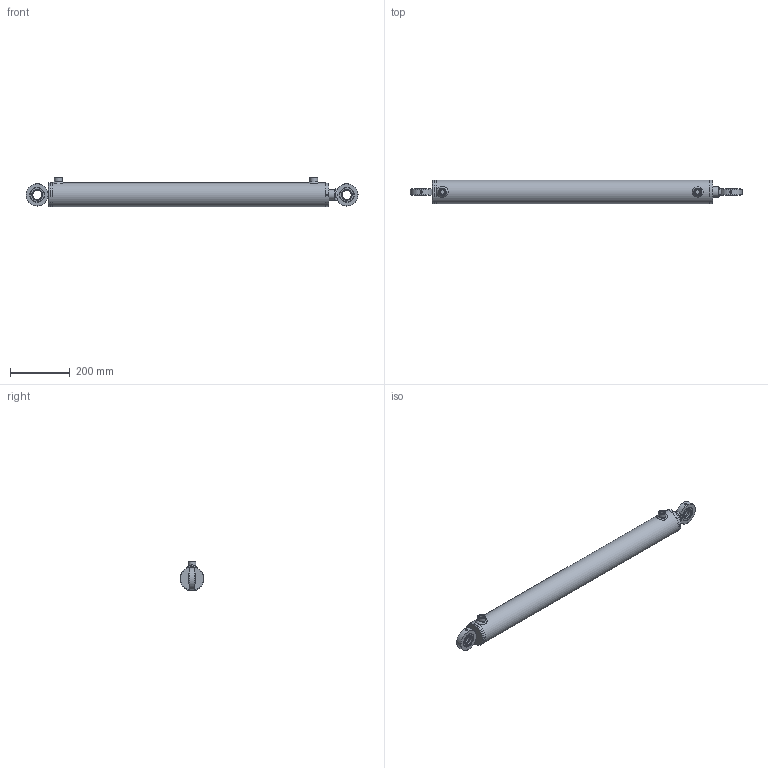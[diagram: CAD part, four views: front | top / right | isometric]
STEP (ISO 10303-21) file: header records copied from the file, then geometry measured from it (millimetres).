
FILE_DESCRIPTION( ( 'Unknown' ), '1' );
FILE_NAME( 'E:/LIBRERIA_3d/CILINDRI/HMC/HMC4350800.stp', 'Unknown', ( 'Unknown' ), ( 'Unknown' ), 'PSStep 17.0.49', 'Unknown', ' ' );
FILE_SCHEMA( ( 'AUTOMOTIVE_DESIGN { 1 0 10303 214 1 1 1 1 }' ) );
Length unit declared in the file: millimetre
Products named in the file (25): CG08007035; CT00070020; STL4500800-oa5; Saldatura d'angolo 1-oa3; FTM4500800-oa4; CBSC220600; CAGEG07504730; CAGE075047; CGE0300000; HM04350800; Saldatura con preparazione 1-oa1; Saldatura d'angolo 1-oa2; CF00070080; CBS0600000; APG0600000; CDA0002015; SBL3530800; Assem1; Saldatura d'angolo 2-oa0
Assembly tree (20 placements, depth 4):
  Saldatura d'angolo 1-oa3
  Saldatura d'angolo 1-oa3
  Saldatura d'angolo 1-oa2
  Saldatura d'angolo 1-oa2
  Assem1
    CAGEG07504730  x2
      CAGE075047
      CGE0300000
    HM04350800
      Saldatura con preparazione 1-oa1
      Saldatura con preparazione 1-oa1
      CF00070080
      CBS0600000
      APG0600000  x2
      CDA0002015
      SBL3530800
      CG08007035
        CG08007035
      CT00070020
        CT00070020
      STL4500800-oa5
        FTM4500800-oa4
        CBSC220600
Bounding box: 1110 x 80 x 99 mm (x, y, z)
Volume: 2451948 mm3; surface area: 675713.6 mm2
Topology: 22 solids, 22 shells, 340 faces, 746 edges, 427 vertices
Faces by surface type: bspline 94, plane 80, cylinder 79, cone 46, torus 37, sphere 4
Full cylindrical faces by diameter (mm): 2.5 x4, 4.25 x1, 5 x4, 6 x2, 7 x2, 14.95 x2, 16 x2, 16.6 x2, 19.4 x1, 20 x5, 22 x2, 24.5 x1, 26 x2, 30 x5, 35 x4, 37 x1, 38 x1, 43.6 x1, 45 x3, 47 x6, 50 x1, 64.18 x2, 65 x1, 68.34 x2, 69.9 x1, 70 x1, 70.3 x1, 70.5 x1, 70.6 x1, 71 x1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
Entity records: 14739 total; most frequent: CARTESIAN_POINT 7332, DIRECTION 884, ORIENTED_EDGE 830, EDGE_LOOP 500, AXIS2_PLACEMENT_3D 428, EDGE_CURVE 415, FACE_OUTER_BOUND 409, VERTEX_POINT 320
